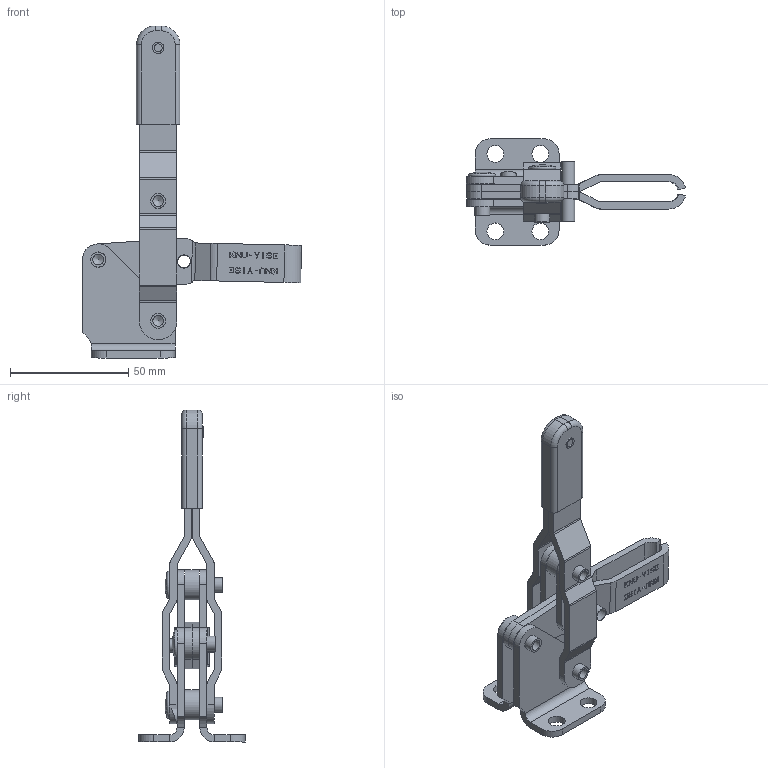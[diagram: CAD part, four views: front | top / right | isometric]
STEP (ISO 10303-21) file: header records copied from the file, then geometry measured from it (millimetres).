
FILE_DESCRIPTION(/* description */ (''),/* implementation_level */ '2;1');
FILE_NAME(/* name */ 'v-375',/* time_stamp */ '2004-01-06T08:22:00-05:00',/* author */ (''),/* organization */ (''),/* preprocessor_version */ 'ST-DEVELOPER v9',/* originating_system */ 'EDS PLM SOLUTIONS - UNIGRAPHICS NX 1.0',/* authorisation */ '');
FILE_SCHEMA (('AUTOMOTIVE_DESIGN { 1 0 10303 214 0 1 1 1 }'));
Length unit declared in the file: inch
Products named in the file (1): mfur5C13004d
Bounding box: 92.81 x 45.01 x 140.65 mm (x, y, z)
Volume: 80609 mm3; surface area: 74883.4 mm2
Topology: 34 solids, 34 shells, 1708 faces, 4554 edges, 3016 vertices
Faces by surface type: plane 1408, cylinder 250, torus 30, sphere 10, cone 10
Full cylindrical faces by diameter (mm): 3.353 x2, 4.572 x8, 4.724 x2, 4.851 x4, 5.41 x2, 5.537 x4, 5.563 x2, 6.299 x8, 6.426 x32, 6.528 x4, 6.604 x2, 7.112 x8, 12.7 x4
Entity records: 52061 total; most frequent: CARTESIAN_POINT 9289, ORIENTED_EDGE 8792, DIRECTION 8306, EDGE_CURVE 4396, LINE 3840, VECTOR 3840, VERTEX_POINT 2980, AXIS2_PLACEMENT_3D 2233
